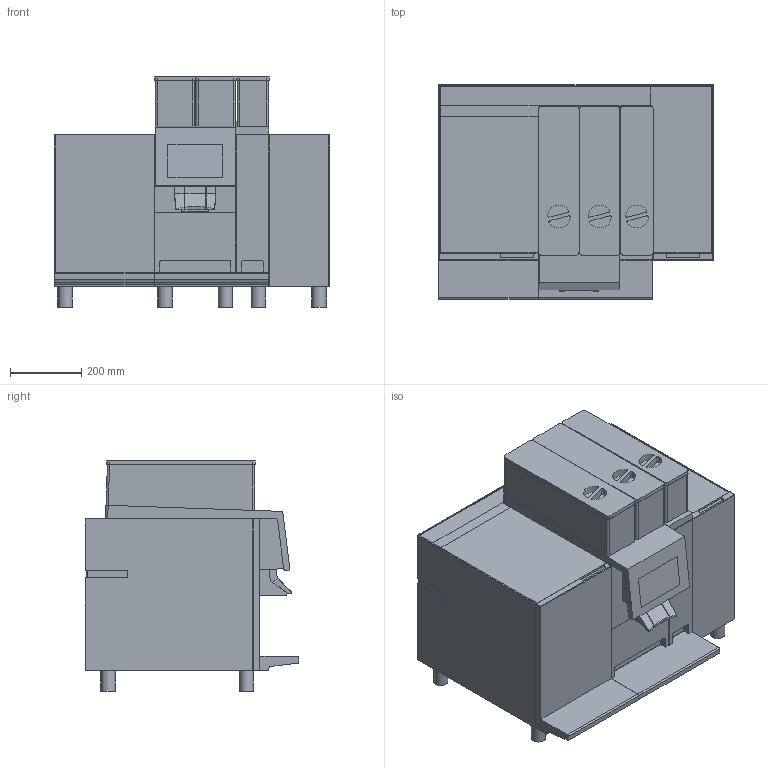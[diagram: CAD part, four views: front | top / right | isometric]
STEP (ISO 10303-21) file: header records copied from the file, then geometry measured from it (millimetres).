
FILE_DESCRIPTION(/* description */ ('Unknown'),/* implementation_level */ '2;1');
FILE_NAME(/* name */ 'HM_BW4c-CTM-P-F-RL',/* time_stamp */ '2026-08-14T14:28:06+02:00',/* author */ ('Unknown'),/* organization */ ('Unknown'),/* preprocessor_version */ 'ST-DEVELOPER v20',/* originating_system */ 'Solid Edge',/* authorisation */ 'Unknown');
FILE_SCHEMA (('AUTOMOTIVE_DESIGN {1 0 10303 214 3 1 1}'));
Length unit declared in the file: millimetre
Products named in the file (1): HM_BW4c-CTM-P-F-RL
Bounding box: 771.3 x 599.39 x 645.98 mm (x, y, z)
Volume: 186157867.1 mm3; surface area: 2772359.7 mm2
Topology: 1 solids, 1 shells, 354 faces, 960 edges, 620 vertices
Faces by surface type: plane 253, cylinder 97, sphere 4
Full cylindrical faces by diameter (mm): 40 x10
Entity records: 13494 total; most frequent: CARTESIAN_POINT 1913, ORIENTED_EDGE 1884, DIRECTION 1861, EDGE_CURVE 942, LINE 733, VECTOR 733, VERTEX_POINT 616, AXIS2_PLACEMENT_3D 564
